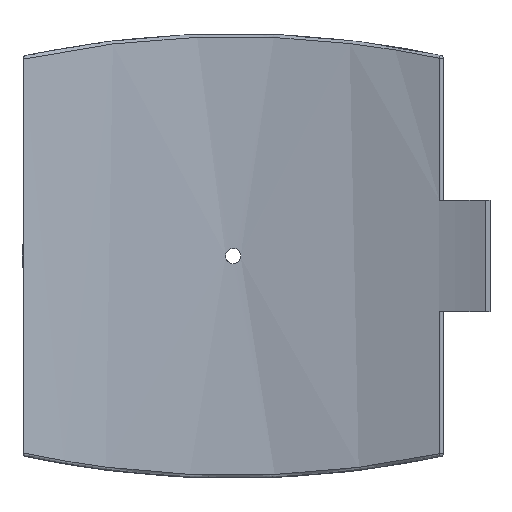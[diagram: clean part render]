
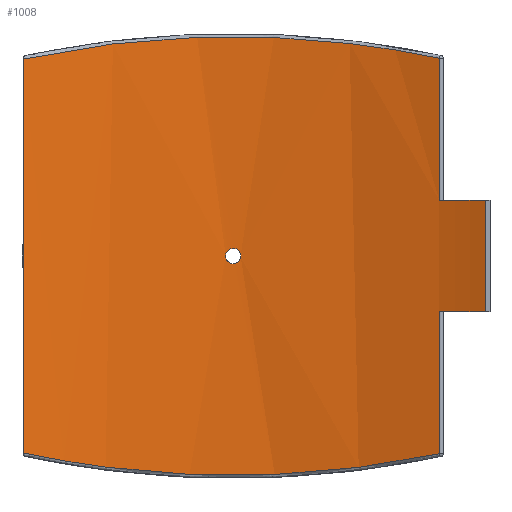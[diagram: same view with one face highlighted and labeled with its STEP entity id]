
A CAD part, front view. The second image highlights one B-rep face of the part: STEP entity #1008.
In plain terms, the highlighted cylindrical face has radius 400 mm (diameter 800 mm), a partial arc.
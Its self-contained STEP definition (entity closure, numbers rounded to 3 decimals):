
#55=FACE_BOUND('',#335,.T.);
#101=B_SPLINE_CURVE_WITH_KNOTS('',3,(#2051,#2052,#2053,#2054,#2055,#2056,
#2057),.UNSPECIFIED.,.F.,.F.,(4,1,1,1,4),(-32.756,-24.46,
-16.165,-7.869,-3.721),.UNSPECIFIED.);
#102=B_SPLINE_CURVE_WITH_KNOTS('',3,(#2066,#2067,#2068,#2069,#2070,#2071,
#2072,#2073),.UNSPECIFIED.,.F.,.F.,(4,1,1,1,1,4),(-29.756,-21.461,
-13.165,-9.017,-4.869,-0.721),
 .UNSPECIFIED.);
#103=B_SPLINE_CURVE_WITH_KNOTS('',3,(#2076,#2077,#2078,#2079,#2080,#2081,
#2082,#2083,#2084,#2085),.UNSPECIFIED.,.F.,.F.,(4,2,2,2,4),(0.,0.196,
0.392,0.588,0.784),.UNSPECIFIED.);
#104=B_SPLINE_CURVE_WITH_KNOTS('',3,(#2086,#2087,#2088,#2089,#2090,#2091,
#2092,#2093,#2094,#2095,#2096,#2097,#2098,#2099,#2100,#2101,#2102,#2103,
#2104,#2105,#2106,#2107,#2108,#2109,#2110,#2111),.UNSPECIFIED.,.F.,.F.,
(4,2,2,2,2,2,2,2,2,2,2,2,4),(0.784,0.979,1.175,
1.371,1.567,1.763,1.959,2.155,
2.351,2.546,2.742,2.938,3.134),
 .UNSPECIFIED.);
#125=LINE('',#1512,#173);
#136=LINE('',#1783,#184);
#143=LINE('',#2062,#191);
#144=LINE('',#2065,#192);
#173=VECTOR('',#1210,10.);
#184=VECTOR('',#1249,10.);
#191=VECTOR('',#1286,10.);
#192=VECTOR('',#1289,10.);
#230=CYLINDRICAL_SURFACE('',#1102,400.);
#271=FACE_OUTER_BOUND('',#334,.T.);
#334=EDGE_LOOP('',(#787,#788,#789,#790,#791,#792,#793,#794));
#335=EDGE_LOOP('',(#795,#796));
#418=CIRCLE('',#1103,400.);
#419=CIRCLE('',#1104,400.);
#473=VERTEX_POINT('',#1503);
#476=VERTEX_POINT('',#1510);
#496=VERTEX_POINT('',#1776);
#499=VERTEX_POINT('',#1781);
#512=VERTEX_POINT('',#2040);
#513=VERTEX_POINT('',#2059);
#514=VERTEX_POINT('',#2061);
#515=VERTEX_POINT('',#2064);
#516=VERTEX_POINT('',#2074);
#517=VERTEX_POINT('',#2075);
#570=EDGE_CURVE('',#476,#473,#125,.T.);
#600=EDGE_CURVE('',#499,#496,#136,.T.);
#623=EDGE_CURVE('',#512,#499,#101,.T.);
#624=EDGE_CURVE('',#513,#476,#418,.T.);
#625=EDGE_CURVE('',#513,#514,#143,.T.);
#626=EDGE_CURVE('',#496,#514,#419,.T.);
#627=EDGE_CURVE('',#515,#512,#144,.T.);
#628=EDGE_CURVE('',#473,#515,#102,.T.);
#629=EDGE_CURVE('',#516,#517,#103,.T.);
#630=EDGE_CURVE('',#517,#516,#104,.T.);
#787=ORIENTED_EDGE('',*,*,#624,.F.);
#788=ORIENTED_EDGE('',*,*,#625,.T.);
#789=ORIENTED_EDGE('',*,*,#626,.F.);
#790=ORIENTED_EDGE('',*,*,#600,.F.);
#791=ORIENTED_EDGE('',*,*,#623,.F.);
#792=ORIENTED_EDGE('',*,*,#627,.F.);
#793=ORIENTED_EDGE('',*,*,#628,.F.);
#794=ORIENTED_EDGE('',*,*,#570,.F.);
#795=ORIENTED_EDGE('',*,*,#629,.T.);
#796=ORIENTED_EDGE('',*,*,#630,.T.);
#1008=ADVANCED_FACE('',(#271,#55),#230,.F.);
#1102=AXIS2_PLACEMENT_3D('',#2058,#1282,#1283);
#1103=AXIS2_PLACEMENT_3D('',#2060,#1284,#1285);
#1104=AXIS2_PLACEMENT_3D('',#2063,#1287,#1288);
#1210=DIRECTION('',(0.,0.,-1.));
#1249=DIRECTION('',(0.,0.,-1.));
#1282=DIRECTION('center_axis',(0.,0.,1.));
#1283=DIRECTION('ref_axis',(-1.,0.,0.));
#1284=DIRECTION('center_axis',(0.,0.,1.));
#1285=DIRECTION('ref_axis',(-0.425,-0.905,0.));
#1286=DIRECTION('',(0.,0.,1.));
#1287=DIRECTION('center_axis',(0.,0.,-1.));
#1288=DIRECTION('ref_axis',(-0.425,-0.905,0.));
#1289=DIRECTION('',(0.,0.,1.));
#1503=CARTESIAN_POINT('',(139.055,375.052,-133.381));
#1510=CARTESIAN_POINT('',(139.055,375.052,-37.5));
#1512=CARTESIAN_POINT('',(139.055,375.052,0.));
#1776=CARTESIAN_POINT('',(139.055,375.052,37.5));
#1781=CARTESIAN_POINT('',(139.055,375.052,133.381));
#1783=CARTESIAN_POINT('',(139.055,375.052,0.));
#2040=CARTESIAN_POINT('',(-141.75,374.041,132.802));
#2051=CARTESIAN_POINT('Ctrl Pts',(-141.75,374.041,132.802));
#2052=CARTESIAN_POINT('Ctrl Pts',(-116.53,383.599,138.272));
#2053=CARTESIAN_POINT('Ctrl Pts',(-63.637,397.78,146.655));
#2054=CARTESIAN_POINT('Ctrl Pts',(19.35,402.402,149.446));
#2055=CARTESIAN_POINT('Ctrl Pts',(87.56,391.965,143.184));
#2056=CARTESIAN_POINT('Ctrl Pts',(126.401,379.743,136.071));
#2057=CARTESIAN_POINT('Ctrl Pts',(139.055,375.052,133.381));
#2058=CARTESIAN_POINT('Origin',(0.,0.,0.));
#2059=CARTESIAN_POINT('',(169.938,362.107,-37.5));
#2060=CARTESIAN_POINT('Origin',(0.,0.,
-37.5));
#2061=CARTESIAN_POINT('',(169.938,362.107,37.5));
#2062=CARTESIAN_POINT('',(169.938,362.107,0.));
#2063=CARTESIAN_POINT('Origin',(0.,0.,
37.5));
#2064=CARTESIAN_POINT('',(-141.75,374.041,-132.802));
#2065=CARTESIAN_POINT('',(-141.75,374.041,0.));
#2066=CARTESIAN_POINT('Ctrl Pts',(139.055,375.052,-133.381));
#2067=CARTESIAN_POINT('Ctrl Pts',(113.746,384.435,-138.761));
#2068=CARTESIAN_POINT('Ctrl Pts',(60.72,398.239,-146.932));
#2069=CARTESIAN_POINT('Ctrl Pts',(-8.469,401.577,-148.947));
#2070=CARTESIAN_POINT('Ctrl Pts',(-63.175,395.69,-145.423));
#2071=CARTESIAN_POINT('Ctrl Pts',(-103.319,387.148,-140.374));
#2072=CARTESIAN_POINT('Ctrl Pts',(-129.14,378.82,-135.537));
#2073=CARTESIAN_POINT('Ctrl Pts',(-141.75,374.041,-132.802));
#2074=CARTESIAN_POINT('',(5.2,399.966,0.));
#2075=CARTESIAN_POINT('',(0.,400.,-5.2));
#2076=CARTESIAN_POINT('Ctrl Pts',(5.2,399.966,0.));
#2077=CARTESIAN_POINT('Ctrl Pts',(5.2,399.966,-0.653));
#2078=CARTESIAN_POINT('Ctrl Pts',(5.07,399.968,-1.349));
#2079=CARTESIAN_POINT('Ctrl Pts',(4.539,399.974,-2.631));
#2080=CARTESIAN_POINT('Ctrl Pts',(4.139,399.979,-3.215));
#2081=CARTESIAN_POINT('Ctrl Pts',(3.215,399.987,-4.139));
#2082=CARTESIAN_POINT('Ctrl Pts',(2.631,399.992,-4.539));
#2083=CARTESIAN_POINT('Ctrl Pts',(1.349,399.998,-5.07));
#2084=CARTESIAN_POINT('Ctrl Pts',(0.653,400.,-5.2));
#2085=CARTESIAN_POINT('Ctrl Pts',(0.,400.,-5.2));
#2086=CARTESIAN_POINT('Ctrl Pts',(0.,400.,-5.2));
#2087=CARTESIAN_POINT('Ctrl Pts',(-0.653,400.,-5.2));
#2088=CARTESIAN_POINT('Ctrl Pts',(-1.349,399.998,-5.07));
#2089=CARTESIAN_POINT('Ctrl Pts',(-2.631,399.992,-4.539));
#2090=CARTESIAN_POINT('Ctrl Pts',(-3.215,399.987,-4.139));
#2091=CARTESIAN_POINT('Ctrl Pts',(-4.139,399.979,-3.215));
#2092=CARTESIAN_POINT('Ctrl Pts',(-4.539,399.974,-2.631));
#2093=CARTESIAN_POINT('Ctrl Pts',(-5.07,399.968,-1.349));
#2094=CARTESIAN_POINT('Ctrl Pts',(-5.2,399.966,-0.653));
#2095=CARTESIAN_POINT('Ctrl Pts',(-5.2,399.966,0.653));
#2096=CARTESIAN_POINT('Ctrl Pts',(-5.07,399.968,1.349));
#2097=CARTESIAN_POINT('Ctrl Pts',(-4.539,399.974,2.631));
#2098=CARTESIAN_POINT('Ctrl Pts',(-4.139,399.979,3.215));
#2099=CARTESIAN_POINT('Ctrl Pts',(-3.215,399.987,4.139));
#2100=CARTESIAN_POINT('Ctrl Pts',(-2.631,399.992,4.539));
#2101=CARTESIAN_POINT('Ctrl Pts',(-1.349,399.998,5.07));
#2102=CARTESIAN_POINT('Ctrl Pts',(-0.653,400.,5.2));
#2103=CARTESIAN_POINT('Ctrl Pts',(0.653,400.,5.2));
#2104=CARTESIAN_POINT('Ctrl Pts',(1.349,399.998,5.07));
#2105=CARTESIAN_POINT('Ctrl Pts',(2.631,399.992,4.539));
#2106=CARTESIAN_POINT('Ctrl Pts',(3.215,399.987,4.139));
#2107=CARTESIAN_POINT('Ctrl Pts',(4.139,399.979,3.215));
#2108=CARTESIAN_POINT('Ctrl Pts',(4.539,399.974,2.631));
#2109=CARTESIAN_POINT('Ctrl Pts',(5.07,399.968,1.349));
#2110=CARTESIAN_POINT('Ctrl Pts',(5.2,399.966,0.653));
#2111=CARTESIAN_POINT('Ctrl Pts',(5.2,399.966,0.));
